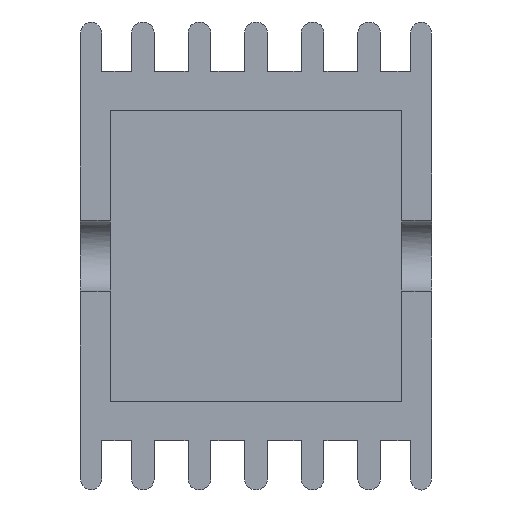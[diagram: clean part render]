
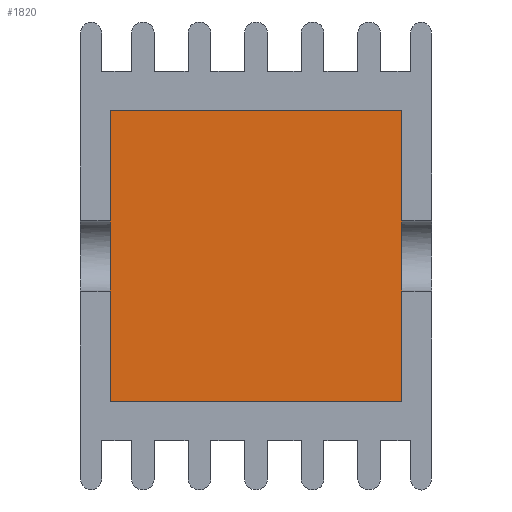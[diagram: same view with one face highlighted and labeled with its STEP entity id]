
A CAD part, left-side view. The second image highlights one B-rep face of the part: STEP entity #1820.
In plain terms, the highlighted planar face has unit normal (-1, 0, 0).
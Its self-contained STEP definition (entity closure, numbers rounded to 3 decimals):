
#14=LINE($,#2593,#218);
#15=LINE($,#2597,#219);
#16=LINE($,#2599,#220);
#17=LINE($,#2601,#221);
#18=LINE($,#2603,#222);
#19=LINE($,#2605,#223);
#20=LINE($,#2606,#224);
#21=LINE($,#2607,#225);
#218=VECTOR($,#2092,2.291);
#219=VECTOR($,#2095,22.4);
#220=VECTOR($,#2096,10.054);
#221=VECTOR($,#2097,2.291);
#222=VECTOR($,#2098,10.054);
#223=VECTOR($,#2099,22.4);
#224=VECTOR($,#2100,10.054);
#225=VECTOR($,#2101,10.054);
#425=PLANE($,#1924);
#502=FACE_OUTER_BOUND($,#597,.T.);
#597=EDGE_LOOP($,(#1186,#1187,#1188,#1189,#1190,#1191,#1192,#1193));
#750=VERTEX_POINT($,#2590);
#751=VERTEX_POINT($,#2591);
#752=VERTEX_POINT($,#2595);
#753=VERTEX_POINT($,#2596);
#754=VERTEX_POINT($,#2598);
#755=VERTEX_POINT($,#2600);
#756=VERTEX_POINT($,#2602);
#757=VERTEX_POINT($,#2604);
#923=EDGE_CURVE($,#750,#751,#14,.T.);
#924=EDGE_CURVE($,#752,#753,#15,.T.);
#925=EDGE_CURVE($,#754,#752,#16,.T.);
#926=EDGE_CURVE($,#754,#755,#17,.T.);
#927=EDGE_CURVE($,#756,#755,#18,.T.);
#928=EDGE_CURVE($,#757,#756,#19,.T.);
#929=EDGE_CURVE($,#750,#757,#20,.T.);
#930=EDGE_CURVE($,#753,#751,#21,.T.);
#1186=ORIENTED_EDGE($,*,*,#924,.F.);
#1187=ORIENTED_EDGE($,*,*,#925,.F.);
#1188=ORIENTED_EDGE($,*,*,#926,.T.);
#1189=ORIENTED_EDGE($,*,*,#927,.F.);
#1190=ORIENTED_EDGE($,*,*,#928,.F.);
#1191=ORIENTED_EDGE($,*,*,#929,.F.);
#1192=ORIENTED_EDGE($,*,*,#923,.T.);
#1193=ORIENTED_EDGE($,*,*,#930,.F.);
#1820=ADVANCED_FACE($,(#502),#425,.F.);
#1924=AXIS2_PLACEMENT_3D($,#2594,#2093,#2094);
#2092=DIRECTION($,(0.,0.,1.));
#2093=DIRECTION('center_axis',(1.,0.,0.));
#2094=DIRECTION('ref_axis',(0.,0.,-1.));
#2095=DIRECTION($,(0.,-1.,0.));
#2096=DIRECTION($,(0.,0.,1.));
#2097=DIRECTION($,(0.,0.,-1.));
#2098=DIRECTION($,(0.,0.,1.));
#2099=DIRECTION($,(0.,1.,0.));
#2100=DIRECTION($,(0.,0.,-1.));
#2101=DIRECTION($,(0.,0.,-1.));
#2590=CARTESIAN_POINT('',(-157.312,7.001,25.692));
#2591=CARTESIAN_POINT('',(-157.312,7.001,27.983));
#2593=CARTESIAN_POINT($,(-157.312,7.001,38.037));
#2594=CARTESIAN_POINT('Origin',(-157.312,18.201,26.837));
#2595=CARTESIAN_POINT('',(-157.312,29.401,38.037));
#2596=CARTESIAN_POINT('',(-157.312,7.001,38.037));
#2597=CARTESIAN_POINT($,(-157.312,12.601,38.037));
#2598=CARTESIAN_POINT('',(-157.312,29.401,27.983));
#2599=CARTESIAN_POINT($,(-157.312,29.401,32.437));
#2600=CARTESIAN_POINT('',(-157.312,29.401,25.692));
#2601=CARTESIAN_POINT($,(-157.312,29.401,15.637));
#2602=CARTESIAN_POINT('',(-157.312,29.401,15.637));
#2603=CARTESIAN_POINT($,(-157.312,29.401,32.437));
#2604=CARTESIAN_POINT('',(-157.312,7.001,15.637));
#2605=CARTESIAN_POINT($,(-157.312,23.801,15.637));
#2606=CARTESIAN_POINT($,(-157.312,7.001,21.237));
#2607=CARTESIAN_POINT($,(-157.312,7.001,21.237));
